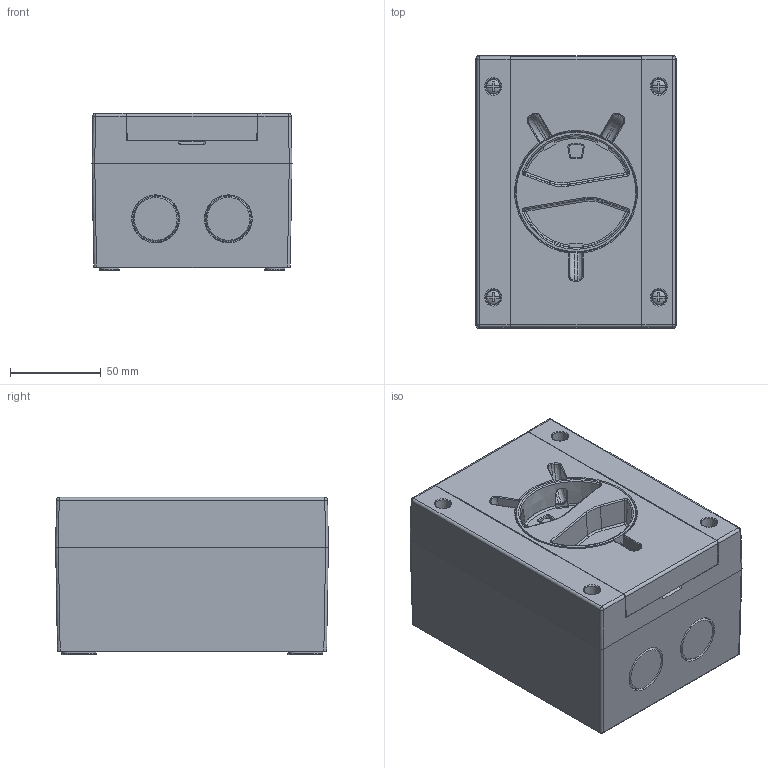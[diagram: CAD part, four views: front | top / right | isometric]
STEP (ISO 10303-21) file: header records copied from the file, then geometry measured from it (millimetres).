
FILE_DESCRIPTION(/* description */ (''),/* implementation_level */ '2;1');
FILE_NAME(/* name */ '4002670.stp',/* time_stamp */ '2019-10-31T08:27:38+01:00',/* author */ (''),/* organization */ (''),/* preprocessor_version */ 'ST-DEVELOPER v16.7',/* originating_system */ 'SIEMENS PLM Software NX 1888',/* authorisation */ '');
FILE_SCHEMA (('AUTOMOTIVE_DESIGN { 1 0 10303 214 3 1 1 1 }'));
Products named in the file (1): BSOM1408C3F78dep
Bounding box: 110 x 150 x 86.5 mm (x, y, z)
Volume: 182000.7 mm3; surface area: 259346.5 mm2
Topology: 7 solids, 8 shells, 2133 faces, 5549 edges, 3499 vertices
Faces by surface type: plane 1044, cylinder 323, extrusion 235, bspline 225, cone 162, torus 90, sphere 54
Full cylindrical faces by diameter (mm): 2.8 x8, 4 x4, 4.2 x4, 7.6 x4, 25.4 x1
Entity records: 75201 total; most frequent: CARTESIAN_POINT 24282, ORIENTED_EDGE 10676, DIRECTION 8831, EDGE_CURVE 5338, VERTEX_POINT 3452, AXIS2_PLACEMENT_3D 3080, VECTOR 2671, LINE 2436
